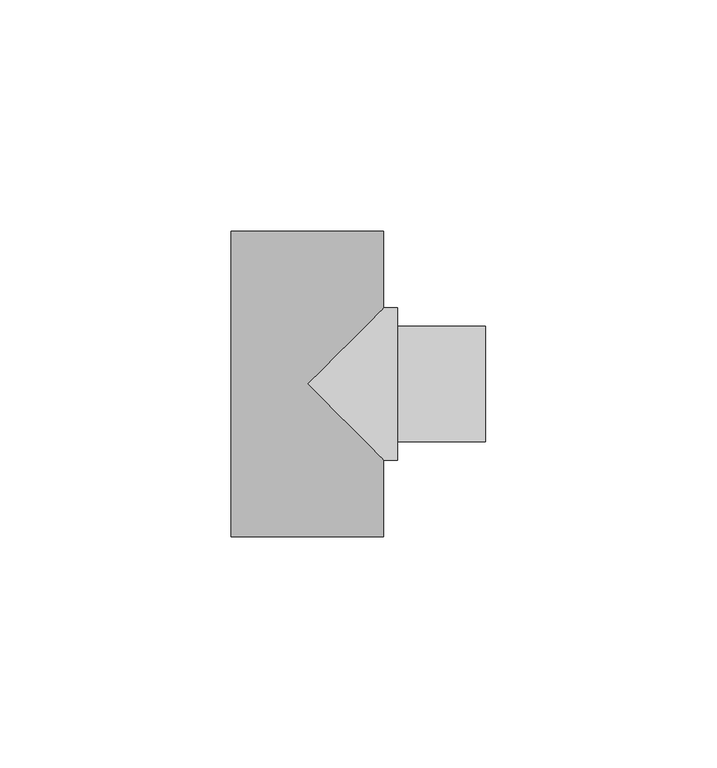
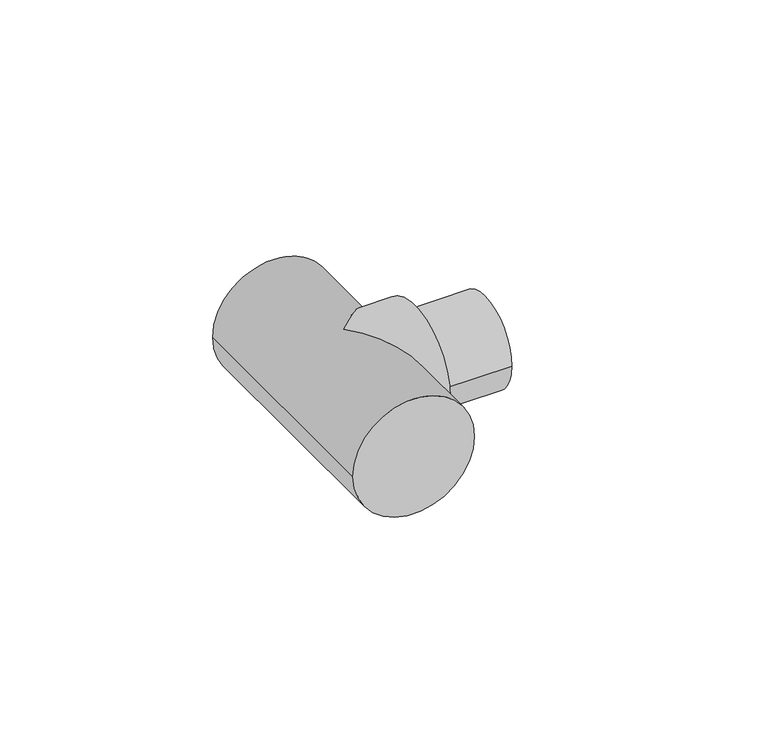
"""IFC4 building model written with IfcOpenShell, lengths in millimetres: pipe fitting geometry, 01051309 : Tê a 90º F/M."""

from ifc_helpers import new_model, si_unit, point, frame, origin, origin_2d, place, context, project, spatial, circle_curve, ellipse_curve, trimmed, segment, composite_curve, outline, extrude, source, transform, mapped, element, save
from ifc_brep_helpers import plane_surface, cylinder_surface, advanced_brep


def pipe_fitting_564561b2(model_context):
    return source(origin(), model_context, "Body", "SolidModel", [
        advanced_brep(
        [(-16.5, 33.0, 0.0), (16.5, 33.0, 0.0), (-16.5, -33.0, 0.0), (16.5, -33.0, 0.0), (16.5, -16.5, 0.0), (0.0, 0.0, 16.5), (16.5, 16.5, 0.0), (0.0, 0.0, -16.5), (19.5, 16.5, 0.0), (19.5, -16.5, 0.0)],
        [
            (0, 1, circle_curve(frame((0.0, 33.0, 0.0), z_axis=(0.0, 1.0, 0.0), x_axis=(1.0, 0.0, 0.0)), 16.5)),
            (1, 0, circle_curve(frame((0.0, 33.0, 0.0), z_axis=(0.0, 1.0, 0.0), x_axis=(1.0, 0.0, 0.0)), 16.5)),
            (2, 3, circle_curve(frame((0.0, -33.0, 0.0), z_axis=(0.0, -1.0, 0.0), x_axis=(1.0, 0.0, 0.0)), 16.5)),
            (3, 2, circle_curve(frame((0.0, -33.0, 0.0), z_axis=(0.0, -1.0, 0.0), x_axis=(1.0, 0.0, 0.0)), 16.5)),
            (0, 2),
            (3, 4),
            (4, 5, ellipse_curve(frame((0.0, 0.0, 0.0), z_axis=(-0.7071067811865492, -0.7071067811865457, 0.0), x_axis=(-0.7071067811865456, 0.7071067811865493, 0.0)), 23.3345238, 16.5)),
            (5, 6, ellipse_curve(frame((0.0, 0.0, 0.0), z_axis=(-0.7071067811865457, 0.7071067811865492, 0.0), x_axis=(0.7071067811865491, 0.7071067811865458, 0.0)), 23.3345238, 16.5)),
            (6, 1),
            (6, 7, ellipse_curve(frame((0.0, 0.0, 0.0), z_axis=(-0.7071067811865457, 0.7071067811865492, 0.0), x_axis=(0.7071067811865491, 0.7071067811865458, 0.0)), 23.3345238, 16.5)),
            (7, 4, ellipse_curve(frame((0.0, 0.0, 0.0), z_axis=(-0.7071067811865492, -0.7071067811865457, 0.0), x_axis=(-0.7071067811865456, 0.7071067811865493, 0.0)), 23.3345238, 16.5)),
            (8, 9, circle_curve(frame((19.5, 0.0, 0.0), z_axis=(1.0, 0.0, 0.0), x_axis=(0.0, -1.0, 0.0)), 16.5)),
            (9, 8, circle_curve(frame((19.5, 0.0, 0.0), z_axis=(1.0, 0.0, 0.0), x_axis=(0.0, -1.0, 0.0)), 16.5)),
            (8, 6),
            (4, 9),
        ],
        [
            plane_surface(frame((0.0, 33.0, 0.0), z_axis=(0.0, 1.0, 0.0), x_axis=(0.0, 0.0, 1.0))),
            plane_surface(frame((0.0, -33.0, 0.0), z_axis=(0.0, -1.0, 0.0), x_axis=(0.0, 0.0, 1.0))),
            cylinder_surface(frame((0.0, 33.0, 0.0), z_axis=(0.0, 1.0, 0.0), x_axis=(1.0, 0.0, 0.0)), 16.5),
            plane_surface(frame((19.5, 0.0, 0.0), z_axis=(1.0, 0.0, 0.0), x_axis=(0.0, 0.0, 1.0))),
            cylinder_surface(frame((19.5, 0.0, 0.0), z_axis=(1.0, 0.0, 0.0), x_axis=(0.0, -1.0, 0.0)), 16.5),
        ],
        [
            (0, [[1, 2]]),
            (1, [[3, 4]]),
            (2, [[-1, 5, -4, 6, 7, 8, 9]]),
            (2, [[-2, -9, 10, 11, -6, -3, -5]]),
            (3, [[12, 13]]),
            (4, [[-12, 14, -8, -7, 15]]),
            (4, [[-13, -15, -11, -10, -14]]),
        ],
    ),
        extrude(outline(composite_curve([segment(trimmed(circle_curve(origin_2d(), 12.5), [point((12.5, 0.0))], [point((-12.5, 0.0))], False, "CARTESIAN"), True, "CONTINUOUS"), segment(trimmed(circle_curve(origin_2d(), 12.5), [point((-12.5, 0.0))], [point((12.5, 0.0))], False, "CARTESIAN"), True, "CONTINUOUS")], self_intersect=False)), frame((19.5, 0.0, 0.0), z_axis=(1.0, 0.0, 0.0), x_axis=(0.0, 1.0, 0.0)), (0.0, 0.0, 1.0), 19.0),
    ])


if __name__ == "__main__":
    model = new_model("IFC4")
    model_context = context("Model", 3, world=origin())
    ifc_project = project(units=[si_unit("LENGTHUNIT", "METRE", prefix="MILLI")], contexts=[model_context])
    site = spatial("IfcSite", under=ifc_project)
    building = spatial("IfcBuilding", under=site)
    placement = place(None, origin())
    pipe_fitting_shape = pipe_fitting_564561b2(model_context)
    element("IfcPipeFitting", 1, ObjectType="01051309 : Tê a 90º F/M", at=placement, inside=building, context=model_context, shape_type="MappedRepresentation", body=[
        mapped(pipe_fitting_shape, transform((0.0, 0.0, 0.0), x_axis=(1.0, 0.0, 0.0), y_axis=(0.0, 1.0, 0.0), z_axis=(0.0, 0.0, 1.0))),
    ])
    save(model, "model.ifc")
